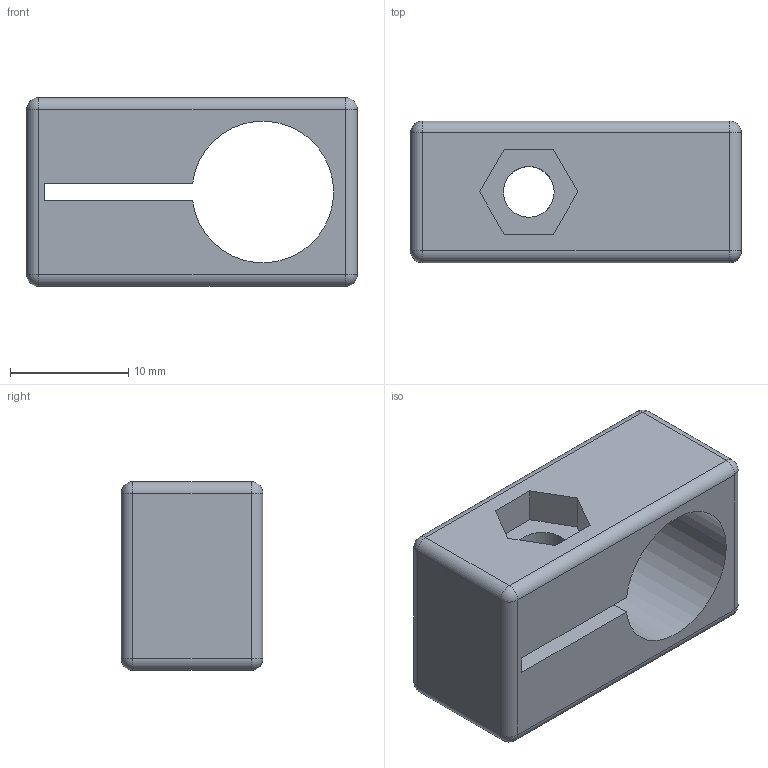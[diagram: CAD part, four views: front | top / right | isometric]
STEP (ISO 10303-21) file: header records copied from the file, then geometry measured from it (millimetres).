
FILE_DESCRIPTION (( 'STEP AP214' ), '1' );
FILE_NAME ('093214.STEP', '2014-08-22T06:19:53', ( '' ), ( '' ), 'SwSTEP 2.0', 'SolidWorks 2014', '' );
FILE_SCHEMA (( 'AUTOMOTIVE_DESIGN' ));
Length unit declared in the file: millimetre
Products named in the file (1): 093214
Bounding box: 28 x 12 x 16 mm (x, y, z)
Volume: 3267.2 mm3; surface area: 2589.8 mm2
Topology: 1 solids, 1 shells, 189 faces, 467 edges, 272 vertices
Faces by surface type: plane 161, cylinder 20, sphere 8
Entity records: 5433 total; most frequent: CARTESIAN_POINT 1065, ORIENTED_EDGE 918, DIRECTION 901, EDGE_CURVE 459, LINE 301, VECTOR 301, AXIS2_PLACEMENT_3D 300, VERTEX_POINT 272
